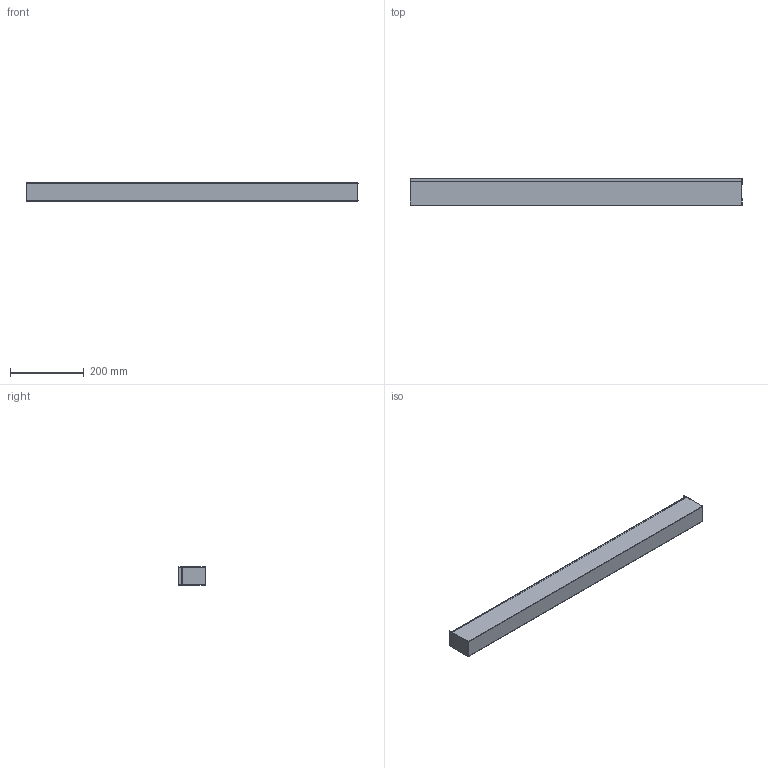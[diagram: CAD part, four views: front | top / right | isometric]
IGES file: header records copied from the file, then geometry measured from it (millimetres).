
Start section: SolidWorks IGES file using analytic representation for surfaces
Global section: file name: C:\Users\ppp\Desktop\Nowodvorski\Modele 3D_lampy\Straight Wall\3ds\Straight Wall_oprawa_90cm_24.07.15.IGS; native system: SolidWorks 2012; preprocessor: SolidWorks 2012; author: ppp; date: 150724.101520; units: millimetre
Bounding box: 900 x 73 x 50 mm (x, y, z)
Surface area: 458823.8 mm2 (no closed solid volume)
Topology: 0 solids, 0 shells, 36 faces, 196 edges, 192 vertices
Faces by surface type: bspline 24, revolution 12
